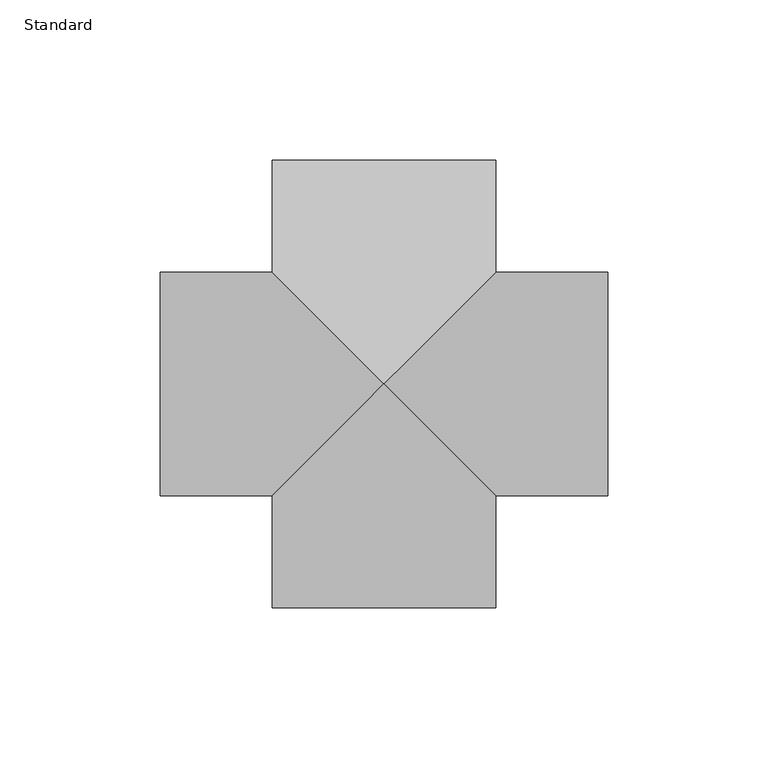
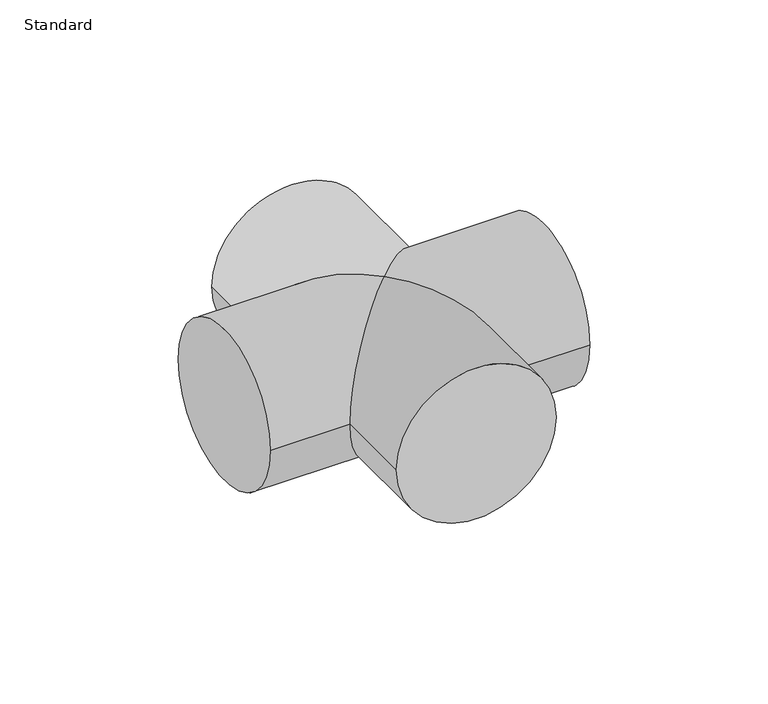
"""IFC4 building model written with IfcOpenShell, lengths in millimetres: pipe fitting geometry, M_Cross - CPVC - Sch 40 : Standard."""

from ifc_helpers import new_model, si_unit, frame, origin, place, context, project, spatial, circle_curve, ellipse_curve, source, transform, mapped, element, save
from ifc_brep_helpers import plane_surface, cylinder_surface, advanced_brep


def standard_2bd12d23(model_context):
    return source(origin(), model_context, "Body", "AdvancedBrep", [
        advanced_brep(
        [(-34.925, -69.85, 0.0), (34.925, -69.85, 0.0), (34.925, -34.925, 0.0), (0.0, 0.0, 34.925), (-34.925, -34.925, 0.0), (0.0, 0.0, -34.925), (34.925, 69.85, 0.0), (-34.925, 69.85, 0.0), (-34.925, 34.925, 0.0), (34.925, 34.925, 0.0), (-69.85, -34.925, 0.0), (-69.85, 34.925, 0.0), (69.85, -34.925, 0.0), (69.85, 34.925, 0.0)],
        [
            (0, 1, circle_curve(frame((0.0, -69.85, 0.0), z_axis=(0.0, -1.0, 0.0), x_axis=(1.0, 0.0, 0.0)), 34.925)),
            (1, 0, circle_curve(frame((0.0, -69.85, 0.0), z_axis=(0.0, -1.0, 0.0), x_axis=(1.0, 0.0, 0.0)), 34.925)),
            (1, 2),
            (2, 3, ellipse_curve(frame((0.0, 0.0, 0.0), z_axis=(-0.707106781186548, -0.7071067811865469, 0.0), x_axis=(-0.7071067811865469, 0.7071067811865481, 0.0)), 49.3914087, 34.925)),
            (3, 4, ellipse_curve(frame((0.0, 0.0, 0.0), z_axis=(0.7071067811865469, -0.7071067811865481, 0.0), x_axis=(0.707106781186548, 0.7071067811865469, 0.0)), 49.3914087, 34.925)),
            (4, 0),
            (4, 5, ellipse_curve(frame((0.0, 0.0, 0.0), z_axis=(0.7071067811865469, -0.7071067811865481, 0.0), x_axis=(0.707106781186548, 0.7071067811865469, 0.0)), 49.3914087, 34.925)),
            (5, 2, ellipse_curve(frame((0.0, 0.0, 0.0), z_axis=(-0.707106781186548, -0.7071067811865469, 0.0), x_axis=(-0.7071067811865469, 0.7071067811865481, 0.0)), 49.3914087, 34.925)),
            (6, 7, circle_curve(frame((0.0, 69.85, 0.0), z_axis=(0.0, 1.0, 0.0), x_axis=(-1.0, 0.0, 0.0)), 34.925)),
            (7, 6, circle_curve(frame((0.0, 69.85, 0.0), z_axis=(0.0, 1.0, 0.0), x_axis=(-1.0, 0.0, 0.0)), 34.925)),
            (7, 8),
            (8, 3, ellipse_curve(frame((0.0, 0.0, 0.0), z_axis=(0.7071067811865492, 0.7071067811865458, 0.0), x_axis=(0.7071067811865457, -0.7071067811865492, 0.0)), 49.3914087, 34.925)),
            (3, 9, ellipse_curve(frame((0.0, 0.0, 0.0), z_axis=(-0.7071067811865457, 0.7071067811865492, 0.0), x_axis=(-0.7071067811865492, -0.7071067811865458, 0.0)), 49.3914087, 34.925)),
            (9, 6),
            (9, 5, ellipse_curve(frame((0.0, 0.0, 0.0), z_axis=(-0.7071067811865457, 0.7071067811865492, 0.0), x_axis=(-0.7071067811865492, -0.7071067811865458, 0.0)), 49.3914087, 34.925)),
            (5, 8, ellipse_curve(frame((0.0, 0.0, 0.0), z_axis=(0.7071067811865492, 0.7071067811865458, 0.0), x_axis=(0.7071067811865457, -0.7071067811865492, 0.0)), 49.3914087, 34.925)),
            (10, 11, circle_curve(frame((-69.85, 0.0, 0.0), z_axis=(-1.0, 0.0, 0.0), x_axis=(0.0, 1.0, 0.0)), 34.925)),
            (11, 10, circle_curve(frame((-69.85, 0.0, 0.0), z_axis=(-1.0, 0.0, 0.0), x_axis=(0.0, 1.0, 0.0)), 34.925)),
            (12, 13, circle_curve(frame((69.85, 0.0, 0.0), z_axis=(1.0, 0.0, 0.0), x_axis=(0.0, 1.0, 0.0)), 34.925)),
            (13, 12, circle_curve(frame((69.85, 0.0, 0.0), z_axis=(1.0, 0.0, 0.0), x_axis=(0.0, 1.0, 0.0)), 34.925)),
            (10, 4),
            (8, 11),
            (13, 9),
            (2, 12),
        ],
        [
            plane_surface(frame((0.0, -69.85, 0.0), z_axis=(0.0, -1.0, 0.0), x_axis=(0.0, 0.0, 1.0))),
            cylinder_surface(frame((0.0, 0.0, 0.0), z_axis=(0.0, 1.0, 0.0), x_axis=(1.0, 0.0, 0.0)), 34.925),
            plane_surface(frame((0.0, 69.85, 0.0), z_axis=(0.0, 1.0, 0.0), x_axis=(0.0, 0.0, 1.0))),
            cylinder_surface(frame((0.0, 0.0, 0.0), z_axis=(0.0, -1.0, 0.0), x_axis=(-1.0, 0.0, 0.0)), 34.925),
            plane_surface(frame((-69.85, 0.0, 0.0), z_axis=(-1.0, 0.0, 0.0), x_axis=(0.0, 0.0, 1.0))),
            plane_surface(frame((69.85, 0.0, 0.0), z_axis=(1.0, 0.0, 0.0), x_axis=(0.0, 0.0, 1.0))),
            cylinder_surface(frame((-69.85, 0.0, 0.0), z_axis=(-1.0, 0.0, 0.0), x_axis=(0.0, 1.0, 0.0)), 34.925),
        ],
        [
            (0, [[1, 2]]),
            (1, [[-2, 3, 4, 5, 6]]),
            (1, [[-1, -6, 7, 8, -3]]),
            (2, [[9, 10]]),
            (3, [[-10, 11, 12, 13, 14]]),
            (3, [[-9, -14, 15, 16, -11]]),
            (4, [[17, 18]]),
            (5, [[19, 20]]),
            (6, [[-17, 21, -5, -12, 22]]),
            (6, [[-20, 23, -13, -4, 24]]),
            (6, [[-18, -22, -16, -7, -21]]),
            (6, [[-19, -24, -8, -15, -23]]),
        ],
    ),
    ])


if __name__ == "__main__":
    model = new_model("IFC4")
    model_context = context("Model", 3, world=origin())
    ifc_project = project(units=[si_unit("LENGTHUNIT", "METRE", prefix="MILLI")], contexts=[model_context])
    site = spatial("IfcSite", under=ifc_project)
    building = spatial("IfcBuilding", under=site)
    placement = place(None, origin())
    standard_shape = standard_2bd12d23(model_context)
    element("IfcPipeFitting", 1, ObjectType="M_Cross - CPVC - Sch 40 : Standard", at=placement, inside=building, context=model_context, shape_type="MappedRepresentation", body=[
        mapped(standard_shape, transform((0.0, 0.0, 0.0), x_axis=(1.0, 0.0, 0.0), y_axis=(0.0, 1.0, 0.0), z_axis=(0.0, 0.0, 1.0))),
    ])
    save(model, "model.ifc")
